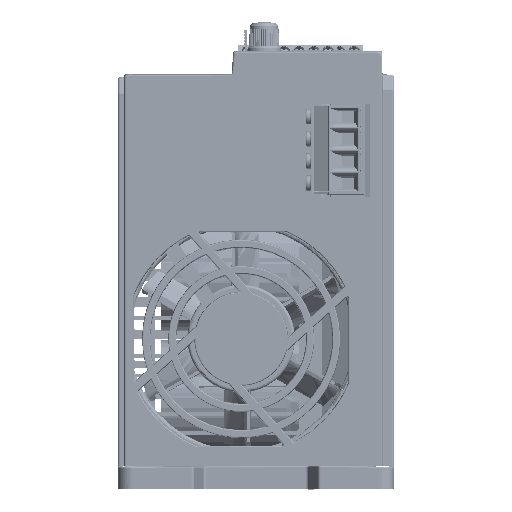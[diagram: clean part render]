
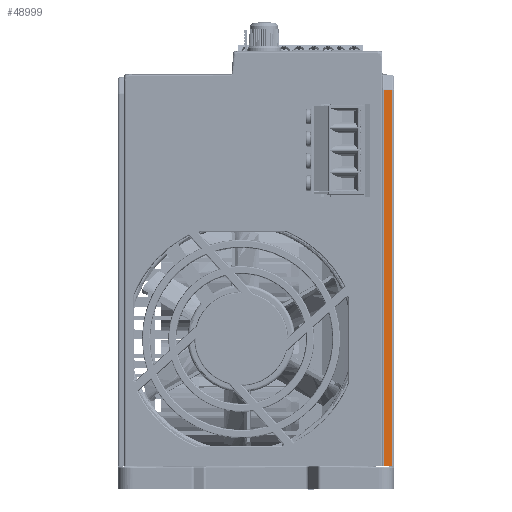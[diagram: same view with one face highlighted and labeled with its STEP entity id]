
A CAD part, left-side view. The second image highlights one B-rep face of the part: STEP entity #48999.
In plain terms, the highlighted planar face has unit normal (-0.999, -0.035, 0) as drawn and (-0.035, 0, -0.999) by its records, which use the part's own axes.
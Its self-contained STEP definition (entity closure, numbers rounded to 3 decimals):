
#48999=ADVANCED_FACE('',(#140846),#140848,.F.);
#140846=FACE_BOUND('',#140847,.T.);
#140847=EDGE_LOOP('',(#255179,#255180,#255181,#255182));
#140848=PLANE('',#140849);
#140849=AXIS2_PLACEMENT_3D('',#140850,#140851,#140852);
#140850=CARTESIAN_POINT('',(-43.5,6.,-101.5));
#140851=DIRECTION('',(0.035,0.,0.999));
#140852=DIRECTION('',(0.,-1.,0.));
#255179=ORIENTED_EDGE('',*,*,#326538,.T.);
#255180=ORIENTED_EDGE('',*,*,#328103,.F.);
#255181=ORIENTED_EDGE('',*,*,#328104,.T.);
#255182=ORIENTED_EDGE('',*,*,#328105,.T.);
#326538=EDGE_CURVE('',#377896,#377894,#377897,.T.);
#328103=EDGE_CURVE('',#380519,#377894,#380521,.T.);
#328104=EDGE_CURVE('',#380519,#380522,#380523,.T.);
#328105=EDGE_CURVE('',#380522,#377896,#380524,.T.);
#377894=VERTEX_POINT('',#501028);
#377896=VERTEX_POINT('',#501033);
#377897=LINE('',#501034,#501035);
#380519=VERTEX_POINT('',#512581);
#380521=LINE('',#512586,#512587);
#380522=VERTEX_POINT('',#512589);
#380523=LINE('',#512590,#512591);
#380524=LINE('',#512593,#512594);
#501028=CARTESIAN_POINT('',(-46.728,6.,-101.387));
#501033=CARTESIAN_POINT('',(-43.983,6.,-101.483));
#501034=CARTESIAN_POINT('',(-43.983,6.,-101.483));
#501035=VECTOR('',#501036,1.);
#501036=DIRECTION('',(-0.999,0.,0.035));
#512581=CARTESIAN_POINT('',(-46.728,135.239,-101.387));
#512586=CARTESIAN_POINT('',(-46.728,135.239,-101.387));
#512587=VECTOR('',#512588,1.);
#512588=DIRECTION('',(0.,-1.,0.));
#512589=CARTESIAN_POINT('',(-43.983,135.279,-101.483));
#512590=CARTESIAN_POINT('',(-46.728,135.239,-101.387));
#512591=VECTOR('',#512592,1.);
#512592=DIRECTION('',(0.999,0.014,-0.035));
#512593=CARTESIAN_POINT('',(-43.983,135.279,-101.483));
#512594=VECTOR('',#512595,1.);
#512595=DIRECTION('',(0.,-1.,0.));
